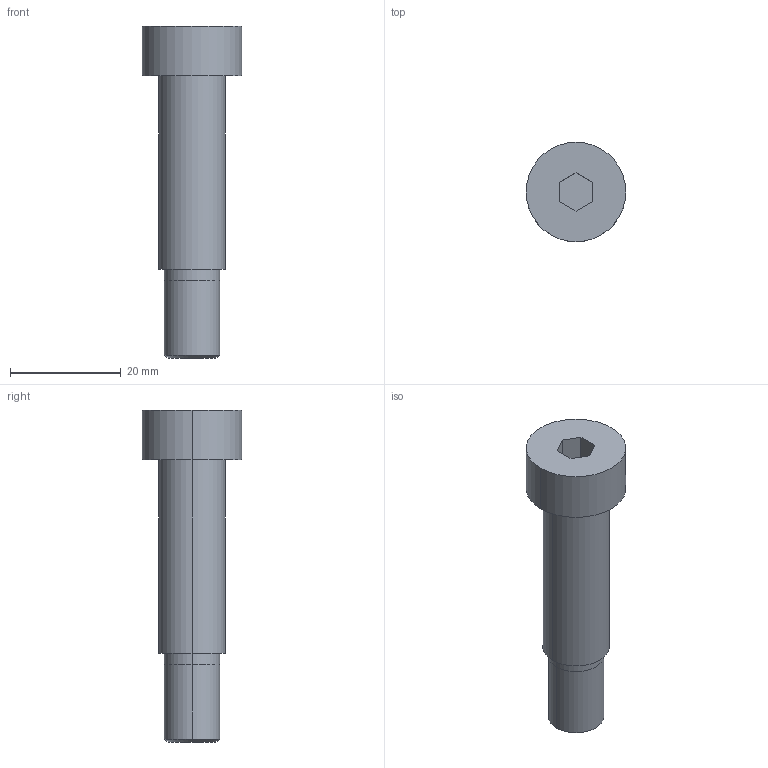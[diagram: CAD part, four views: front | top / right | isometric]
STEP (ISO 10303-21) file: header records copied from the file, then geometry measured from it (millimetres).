
FILE_DESCRIPTION (( 'STEP AP214' ), '1' );
FILE_NAME ('BruyRubio_TPM__10_x_35.STEP', '2019-12-22T23:18:26', ( '' ), ( '' ), 'SwSTEP 2.0', 'SolidWorks 2017', '' );
FILE_SCHEMA (( 'AUTOMOTIVE_DESIGN' ));
Length unit declared in the file: millimetre
Products named in the file (1): BruyRubio_TPM__10_x_35
Bounding box: 18 x 18 x 60 mm (x, y, z)
Volume: 7344.2 mm3; surface area: 3729.7 mm2
Topology: 2 solids, 2 shells, 27 faces, 56 edges, 36 vertices
Faces by surface type: plane 13, cylinder 12, cone 2
Entity records: 1066 total; most frequent: DIRECTION 136, CARTESIAN_POINT 120, ORIENTED_EDGE 112, EDGE_CURVE 56, AXIS2_PLACEMENT_3D 52, VERTEX_POINT 36, EDGE_LOOP 32, VECTOR 32
